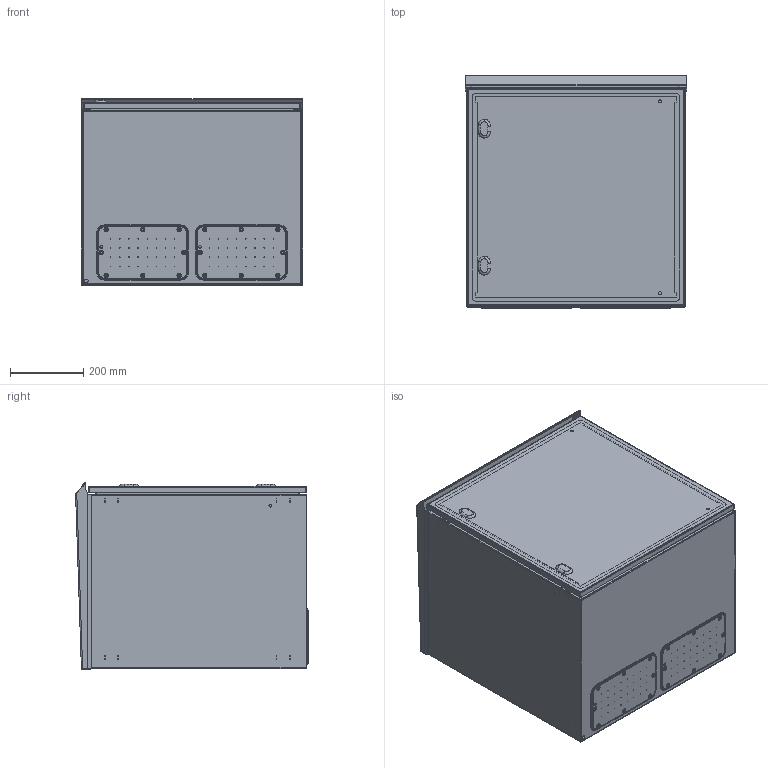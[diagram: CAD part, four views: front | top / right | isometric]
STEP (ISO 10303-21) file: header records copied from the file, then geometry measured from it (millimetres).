
FILE_DESCRIPTION (( 'STEP AP203' ), '1' );
FILE_NAME ('APRO06650BOC.STEP', '2022-01-05T14:07:54', ( '' ), ( '' ), 'SwSTEP 2.0', 'SolidWorks 2021', '' );
FILE_SCHEMA (( 'CONFIG_CONTROL_DESIGN' ));
Length unit declared in the file: millimetre
Products named in the file (9): APRO06650BOC; AR_BOX ABACUS PRO_involucro_0600x0600x0500; AR_ECOR_Tettuccio_28; AR_ECOR_porta_singola_0600x0600; 03008060001_07; 03008080701_04; AR_ECOR_flangia IC_03; AR_ECOR_montaggio_porta_singola_0600x0600; AR_ECOR_chiusura_std_STD
Assembly tree (14 placements, depth 3):
  APRO06650BOC
    AR_BOX ABACUS PRO_involucro_0600x0600x0500
    AR_ECOR_montaggio_porta_singola_0600x0600
      AR_ECOR_porta_singola_0600x0600
      AR_ECOR_chiusura_std_STD  x2
    AR_ECOR_flangia IC_03  x2
    03008060001_07  x4
    03008080701_04  x2
    AR_ECOR_Tettuccio_28
Bounding box: 607 x 637.31 x 511.43 mm (x, y, z)
Volume: 3963167.6 mm3; surface area: 5338082.1 mm2
Topology: 13 solids, 13 shells, 3973 faces, 10819 edges, 6670 vertices
Faces by surface type: plane 2538, cylinder 1161, cone 108, torus 78, bspline 72, sphere 16
Entity records: 58247 total; most frequent: CARTESIAN_POINT 11238, ORIENTED_EDGE 9552, DIRECTION 9467, EDGE_CURVE 4776, VECTOR 3367, LINE 3367, AXIS2_PLACEMENT_3D 3050, VERTEX_POINT 3002
